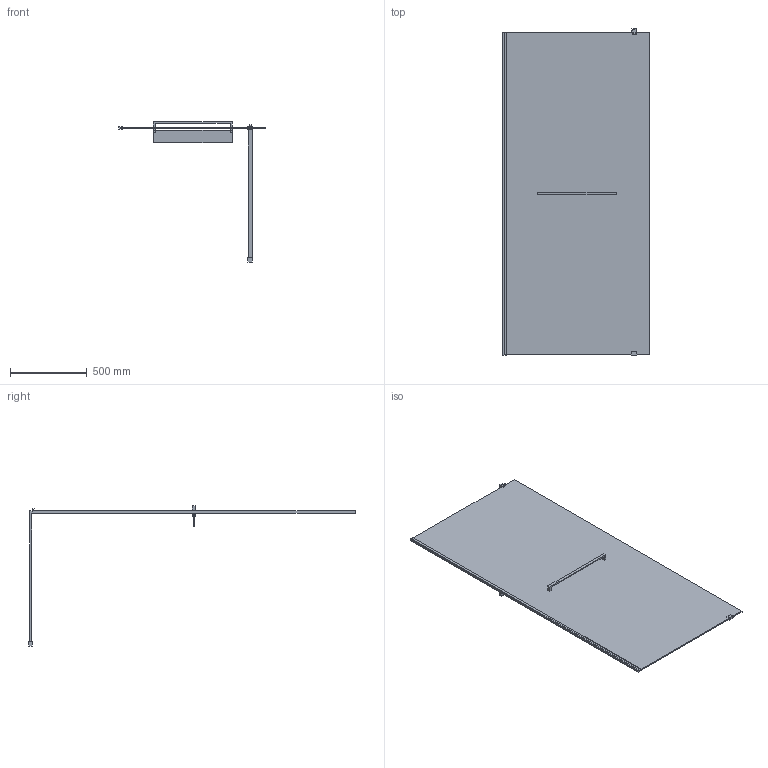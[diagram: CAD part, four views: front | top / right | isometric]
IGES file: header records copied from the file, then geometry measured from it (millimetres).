
Start section: SolidWorks IGES file using analytic representation for surfaces
Global section: file name: D:\Users\M.Szymanski\Desktop\Kabiny\PIII_ALTIIa\03. do przegrania\PIII_ALTIIa_100_z_relingiem_i_polka_K3D.IGS; native system: SolidWorks 2011; preprocessor: SolidWorks 2011; author: M.Szymanski; date: 181005.104413; units: millimetre
Bounding box: 958.45 x 2128 x 914.13 mm (x, y, z)
Surface area: 4452224.5 mm2 (no closed solid volume)
Topology: 0 solids, 0 shells, 76 faces, 552 edges, 736 vertices
Faces by surface type: bspline 76
